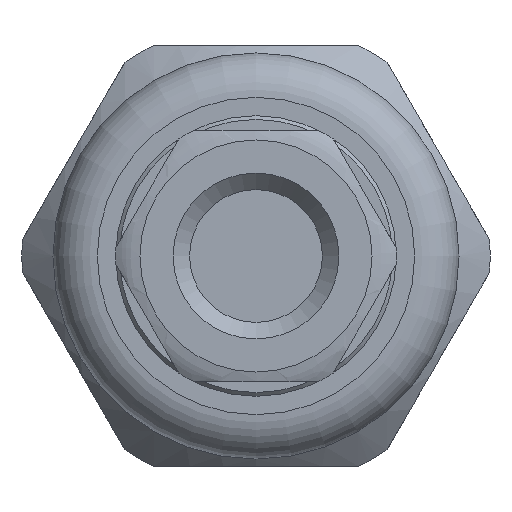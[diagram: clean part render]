
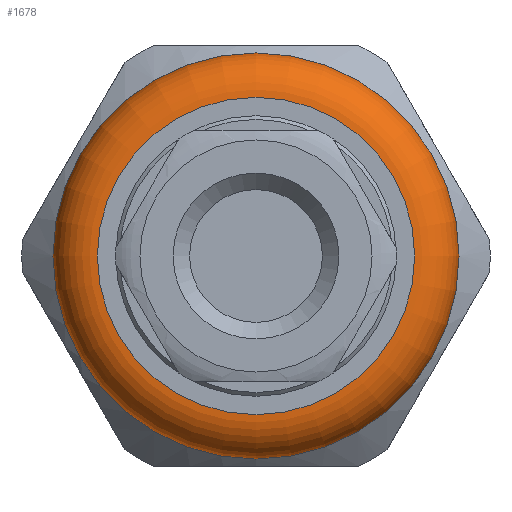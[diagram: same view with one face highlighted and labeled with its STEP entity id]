
A CAD part, left-side view. The second image highlights one B-rep face of the part: STEP entity #1678.
In plain terms, the highlighted toroidal (fillet/blend) face has major radius 10.743 mm and minor radius 3.007 mm.
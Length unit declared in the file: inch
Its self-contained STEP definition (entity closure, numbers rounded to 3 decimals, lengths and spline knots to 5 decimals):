
#14=TOROIDAL_SURFACE('',#1866,0.42294,0.1184);
#163=FACE_OUTER_BOUND('',#262,.T.);
#262=EDGE_LOOP('',(#1283,#1284,#1285,#1286,#1287,#1288));
#531=CIRCLE('',#1864,0.54134);
#532=CIRCLE('',#1865,0.54134);
#533=CIRCLE('',#1867,0.42306);
#534=CIRCLE('',#1868,0.42306);
#535=CIRCLE('',#1869,0.1184);
#694=VERTEX_POINT('',#2948);
#695=VERTEX_POINT('',#2949);
#696=VERTEX_POINT('',#2954);
#697=VERTEX_POINT('',#2955);
#905=EDGE_CURVE('',#694,#695,#531,.T.);
#906=EDGE_CURVE('',#695,#694,#532,.T.);
#908=EDGE_CURVE('',#696,#697,#533,.T.);
#909=EDGE_CURVE('',#697,#696,#534,.T.);
#910=EDGE_CURVE('',#697,#695,#535,.T.);
#1283=ORIENTED_EDGE('',*,*,#908,.F.);
#1284=ORIENTED_EDGE('',*,*,#909,.F.);
#1285=ORIENTED_EDGE('',*,*,#910,.T.);
#1286=ORIENTED_EDGE('',*,*,#906,.T.);
#1287=ORIENTED_EDGE('',*,*,#905,.T.);
#1288=ORIENTED_EDGE('',*,*,#910,.F.);
#1678=ADVANCED_FACE('',(#163),#14,.T.);
#1864=AXIS2_PLACEMENT_3D('',#2950,#2260,#2261);
#1865=AXIS2_PLACEMENT_3D('',#2951,#2262,#2263);
#1866=AXIS2_PLACEMENT_3D('',#2953,#2265,#2266);
#1867=AXIS2_PLACEMENT_3D('',#2956,#2267,#2268);
#1868=AXIS2_PLACEMENT_3D('',#2957,#2269,#2270);
#1869=AXIS2_PLACEMENT_3D('',#2958,#2271,#2272);
#2260=DIRECTION('center_axis',(-1.,0.,0.));
#2261=DIRECTION('ref_axis',(0.,0.,
1.));
#2262=DIRECTION('center_axis',(-1.,0.,0.));
#2263=DIRECTION('ref_axis',(0.,0.,
1.));
#2265=DIRECTION('center_axis',(-1.,0.,0.));
#2266=DIRECTION('ref_axis',(0.,0.,
1.));
#2267=DIRECTION('center_axis',(-1.,0.,0.));
#2268=DIRECTION('ref_axis',(0.,0.,
1.));
#2269=DIRECTION('center_axis',(-1.,0.,0.));
#2270=DIRECTION('ref_axis',(0.,0.,
1.));
#2271=DIRECTION('center_axis',(0.,-1.,0.));
#2272=DIRECTION('ref_axis',(0.,0.,-1.));
#2948=CARTESIAN_POINT('',(-2.96974,-1.13623,0.91761));
#2949=CARTESIAN_POINT('',(-2.96974,-1.13623,-0.16507));
#2950=CARTESIAN_POINT('Origin',(-2.96974,-1.13623,0.37627));
#2951=CARTESIAN_POINT('Origin',(-2.96974,-1.13623,0.37627));
#2953=CARTESIAN_POINT('Origin',(-2.96945,-1.13623,0.37627));
#2954=CARTESIAN_POINT('',(-3.08785,-1.13623,0.79933));
#2955=CARTESIAN_POINT('',(-3.08785,-1.13623,-0.04679));
#2956=CARTESIAN_POINT('Origin',(-3.08785,-1.13623,0.37627));
#2957=CARTESIAN_POINT('Origin',(-3.08785,-1.13623,0.37627));
#2958=CARTESIAN_POINT('Origin',(-2.96945,-1.13623,-0.04666));
